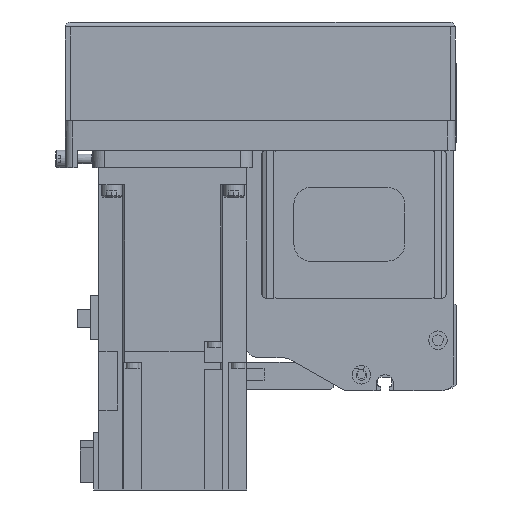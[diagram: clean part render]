
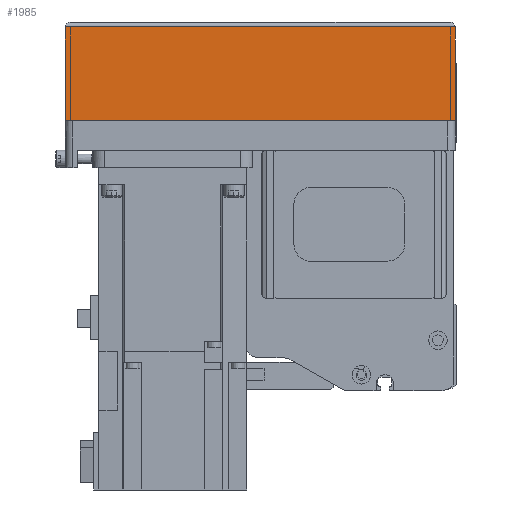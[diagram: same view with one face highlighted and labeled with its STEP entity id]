
A CAD part, left-side view. The second image highlights one B-rep face of the part: STEP entity #1985.
In plain terms, the highlighted planar face has unit normal (-1, 0, 0) as drawn and (0, 1, 0) by its records, which use the part's own axes.
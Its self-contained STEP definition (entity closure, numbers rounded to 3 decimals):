
#1985 = ADVANCED_FACE( '', ( #4765 ), #4766, .T. );
#4765 = FACE_OUTER_BOUND( '', #8517, .T. );
#4766 = PLANE( '', #8518 );
#8517 = EDGE_LOOP( '', ( #14205, #14206, #14207, #14208 ) );
#8518 = AXIS2_PLACEMENT_3D( '', #14209, #14210, #14211 );
#14205 = ORIENTED_EDGE( '', *, *, #22712, .F. );
#14206 = ORIENTED_EDGE( '', *, *, #22403, .F. );
#14207 = ORIENTED_EDGE( '', *, *, #22713, .T. );
#14208 = ORIENTED_EDGE( '', *, *, #22714, .T. );
#14209 = CARTESIAN_POINT( '', ( -158., 39., -50. ) );
#14210 = DIRECTION( '', ( 0., 1., 0. ) );
#14211 = DIRECTION( '', ( 0., 0., 1. ) );
#22403 = EDGE_CURVE( '', #25655, #27298, #27299, .T. );
#22712 = EDGE_CURVE( '', #27298, #27760, #27761, .T. );
#22713 = EDGE_CURVE( '', #25655, #27319, #27762, .T. );
#22714 = EDGE_CURVE( '', #27319, #27760, #27763, .T. );
#25655 = VERTEX_POINT( '', #31907 );
#27298 = VERTEX_POINT( '', #34279 );
#27299 = LINE( '', #34280, #34281 );
#27319 = VERTEX_POINT( '', #34308 );
#27760 = VERTEX_POINT( '', #35152 );
#27761 = LINE( '', #35153, #35154 );
#27762 = LINE( '', #35155, #35156 );
#27763 = LINE( '', #35157, #35158 );
#31907 = CARTESIAN_POINT( '', ( -158., 39., -50. ) );
#34279 = CARTESIAN_POINT( '', ( 0., 39., -50. ) );
#34280 = CARTESIAN_POINT( '', ( -158., 39., -50. ) );
#34281 = VECTOR( '', #41287, 1000. );
#34308 = CARTESIAN_POINT( '', ( -158., 39., -12.1 ) );
#35152 = CARTESIAN_POINT( '', ( 0., 39., -12.1 ) );
#35153 = CARTESIAN_POINT( '', ( 0., 39., -50. ) );
#35154 = VECTOR( '', #41633, 1000. );
#35155 = CARTESIAN_POINT( '', ( -158., 39., -50. ) );
#35156 = VECTOR( '', #41634, 1000. );
#35157 = CARTESIAN_POINT( '', ( -158., 39., -12.1 ) );
#35158 = VECTOR( '', #41635, 1000. );
#41287 = DIRECTION( '', ( 1., 0., 0. ) );
#41633 = DIRECTION( '', ( 0., 0., 1. ) );
#41634 = DIRECTION( '', ( 0., 0., 1. ) );
#41635 = DIRECTION( '', ( 1., 0., 0. ) );
